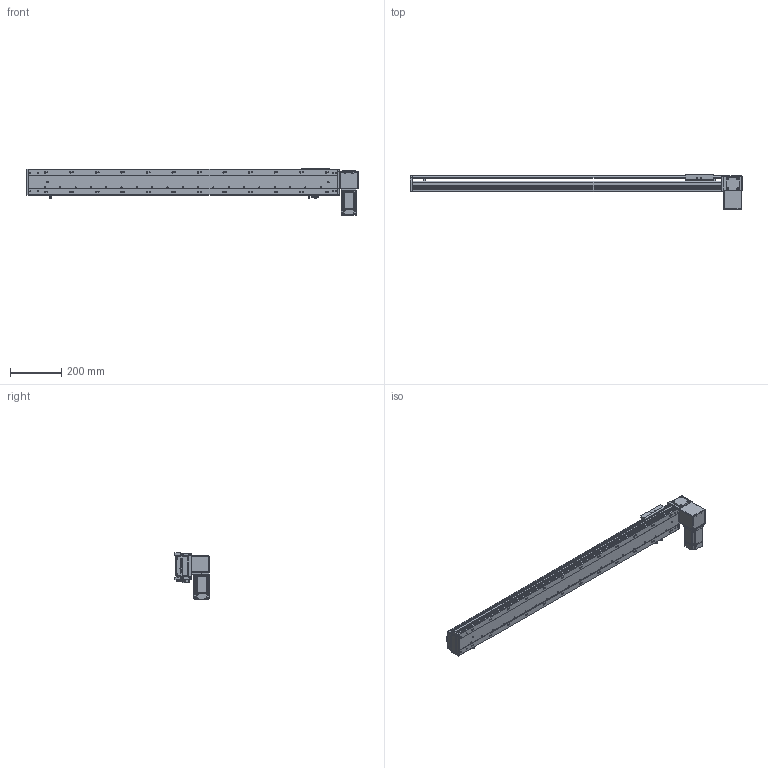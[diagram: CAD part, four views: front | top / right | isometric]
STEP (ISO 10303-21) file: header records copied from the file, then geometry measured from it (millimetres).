
FILE_DESCRIPTION (( 'STEP AP203' ), '1' );
FILE_NAME ('RY100-T-300-DL.SLDASM_1000.step', '2024-04-24T01:11:30', ( '盈信电脑' ), ( '东莞市道滘镇水果街19号' ), 'SwSTEP 2.0', 'SolidWorks 2016', '' );
FILE_SCHEMA (( 'CONFIG_CONTROL_DESIGN' ));
Length unit declared in the file: millimetre
Products named in the file (16): RY100綴裔啣; RY100-T翋肮祭謫粣; RY100-T-300-RK倰第菁釱_1000; RY100-T左右折电机安装板; RY100-T肮祭謫翋盓傅釱; RY100-T翋肮祭謫裔啣; 滅袉蝶18-10; RY80-T肮祭謫狟殏俋欶; RY100-T肮祭謫臏賑輸; RY100-T-300-RK倰第奻裔_1000; RY100-T翋肮祭謫裔啣2; 1; RY100-T-300-DL.SLDASM_1000; RY100俋离覜茼え; RY100-T粣創揤踡裔; 覜茼ん672
Assembly tree (18 placements, depth 2):
  RY100-T-300-DL.SLDASM_1000
    RY100-T-300-RK倰第菁釱_1000
    RY100-T-300-RK倰第奻裔_1000
    RY100-T肮祭謫臏賑輸
    RY100綴裔啣
    覜茼ん672  x3
    RY100俋离覜茼え
    RY100-T翋肮祭謫粣
    RY100-T肮祭謫翋盓傅釱
    滅袉蝶18-10  x2
    RY100-T翋肮祭謫裔啣
    1
    RY100-T左右折电机安装板
    RY100-T粣創揤踡裔
    RY100-T翋肮祭謫裔啣2
    RY80-T肮祭謫狟殏俋欶
Bounding box: 1300 x 135.5 x 182.5 mm (x, y, z)
Volume: 2636172 mm3; surface area: 1088622.3 mm2
Topology: 18 solids, 18 shells, 2337 faces, 6522 edges, 4238 vertices
Faces by surface type: plane 1231, cylinder 879, cone 149, bspline 78
Entity records: 76321 total; most frequent: CARTESIAN_POINT 18760, ORIENTED_EDGE 11876, DIRECTION 11286, EDGE_CURVE 5938, VERTEX_POINT 3906, AXIS2_PLACEMENT_3D 3769, LINE 3748, VECTOR 3748
